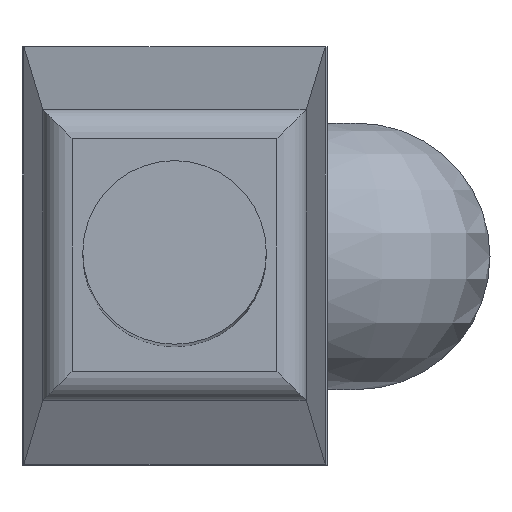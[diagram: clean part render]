
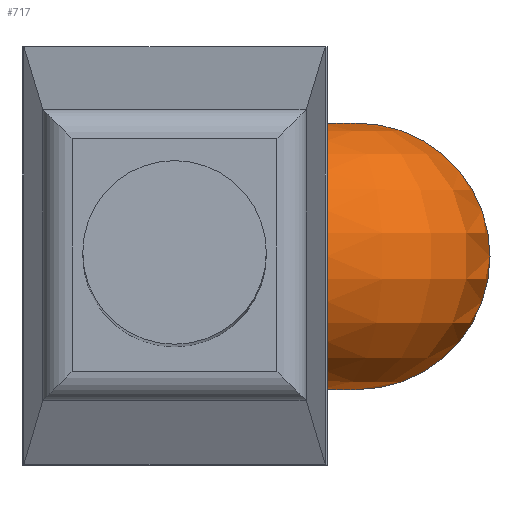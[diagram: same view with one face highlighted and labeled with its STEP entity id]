
A CAD part, top view. The second image highlights one B-rep face of the part: STEP entity #717.
In plain terms, the highlighted face is a revolution surface.
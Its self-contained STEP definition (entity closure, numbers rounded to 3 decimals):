
#420 = VERTEX_POINT('',#421);
#421 = CARTESIAN_POINT('',(5.15,-4.5,1.));
#427 = EDGE_CURVE('',#428,#420,#430,.T.);
#428 = VERTEX_POINT('',#429);
#429 = CARTESIAN_POINT('',(5.15,4.5,1.));
#430 = CIRCLE('',#431,4.5);
#431 = AXIS2_PLACEMENT_3D('',#432,#433,#434);
#432 = CARTESIAN_POINT('',(5.15,0.,1.));
#433 = DIRECTION('',(1.,0.,0.));
#434 = DIRECTION('',(0.,1.,0.));
#617 = VERTEX_POINT('',#618);
#618 = CARTESIAN_POINT('',(6.15,4.5,0.));
#624 = EDGE_CURVE('',#617,#625,#627,.T.);
#625 = VERTEX_POINT('',#626);
#626 = CARTESIAN_POINT('',(6.15,-4.5,0.));
#627 = CIRCLE('',#628,4.5);
#628 = AXIS2_PLACEMENT_3D('',#629,#630,#631);
#629 = CARTESIAN_POINT('',(6.15,0.,0.));
#630 = DIRECTION('',(0.,0.,-1.));
#631 = DIRECTION('',(0.,1.,0.));
#704 = EDGE_CURVE('',#428,#617,#705,.T.);
#705 = CIRCLE('',#706,1.);
#706 = AXIS2_PLACEMENT_3D('',#707,#708,#709);
#707 = CARTESIAN_POINT('',(5.15,4.5,0.));
#708 = DIRECTION('',(0.,1.,0.));
#709 = DIRECTION('',(0.,0.,1.));
#717 = ADVANCED_FACE('',(#718),#730,.F.);
#718 = FACE_BOUND('',#719,.F.);
#719 = EDGE_LOOP('',(#720,#721,#722,#729));
#720 = ORIENTED_EDGE('',*,*,#704,.T.);
#721 = ORIENTED_EDGE('',*,*,#624,.T.);
#722 = ORIENTED_EDGE('',*,*,#723,.F.);
#723 = EDGE_CURVE('',#420,#625,#724,.T.);
#724 = CIRCLE('',#725,1.);
#725 = AXIS2_PLACEMENT_3D('',#726,#727,#728);
#726 = CARTESIAN_POINT('',(5.15,-4.5,0.));
#727 = DIRECTION('',(0.,1.,0.));
#728 = DIRECTION('',(0.,0.,1.));
#729 = ORIENTED_EDGE('',*,*,#427,.F.);
#730 = SURFACE_OF_REVOLUTION('',#731,#736);
#731 = CIRCLE('',#732,4.5);
#732 = AXIS2_PLACEMENT_3D('',#733,#734,#735);
#733 = CARTESIAN_POINT('',(5.15,0.,1.));
#734 = DIRECTION('',(1.,0.,0.));
#735 = DIRECTION('',(0.,1.,0.));
#736 = AXIS1_PLACEMENT('',#737,#738);
#737 = CARTESIAN_POINT('',(5.15,0.,0.));
#738 = DIRECTION('',(0.,1.,0.));
